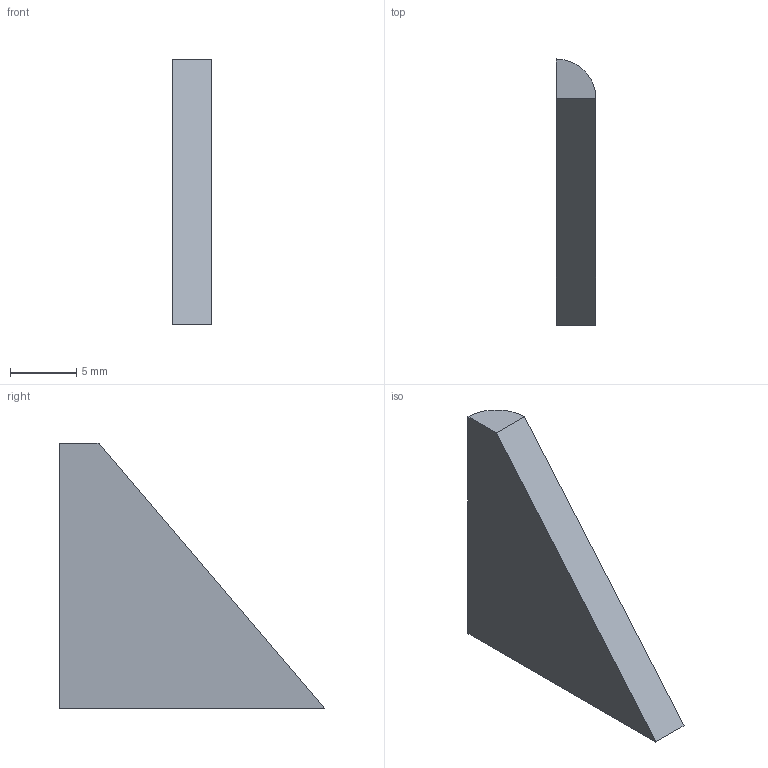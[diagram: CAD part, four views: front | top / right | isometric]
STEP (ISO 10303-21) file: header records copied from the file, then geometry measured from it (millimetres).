
FILE_DESCRIPTION(/* description */ ('STEP AP242 Edition 2','CAx-IF Rec.Pracs.---Representation and Presentation of Product Manufacturing Information (PMI)---4.0---2014-10-13','CAx-IF Rec.Pracs.---3D Tessellated Geometry---0.4---2014-09-14','2;1','CAx-IF Rec.Pracs.---User Defined Attributes---1.5---2016-08-15'),/* implementation_level */ '2;1');
FILE_NAME(/* name */ 'Assembly 1 - Part 9-Mirrored (2)',/* time_stamp */ '2026-10-08T06:00:20Z',/* author */ (''),/* organization */ (''),/* preprocessor_version */ 'ST-DEVELOPER v20',/* originating_system */ 'ONSHAPE BY PTC INC, 1.221',/* authorisation */ ' ');
FILE_SCHEMA (('AP242_MANAGED_MODEL_BASED_3D_ENGINEERING_MIM_LF { 1 0 10303 442 3 1 4 }'));
Length unit declared in the file: metre
Products named in the file (1): Part 9-Mirrored
Bounding box: 3 x 20 x 20 mm (x, y, z)
Volume: 651.4 mm3; surface area: 638.1 mm2
Topology: 1 solids, 1 shells, 6 faces, 11 edges, 7 vertices
Faces by surface type: bspline 6
Entity records: 174 total; most frequent: CARTESIAN_POINT 47, ORIENTED_EDGE 22, DIRECTION 15, EDGE_CURVE 11, LINE 9, VECTOR 9, VERTEX_POINT 7, EDGE_LOOP 6
